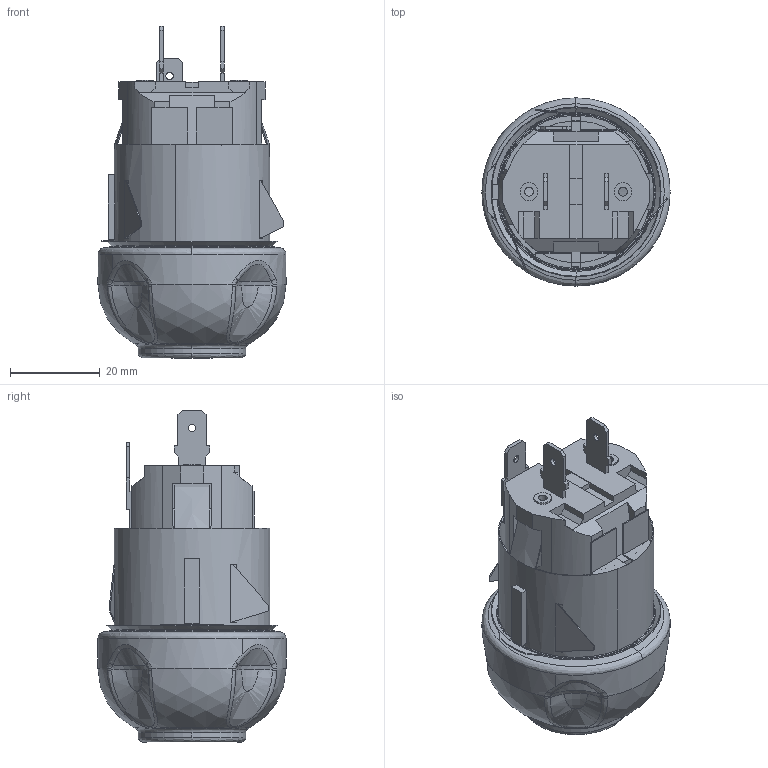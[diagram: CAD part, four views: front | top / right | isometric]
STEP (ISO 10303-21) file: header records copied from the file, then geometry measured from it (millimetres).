
FILE_DESCRIPTION(('CAx-IF Rec.Pracs.---Model Styling and Organization---1.2---2011-12-15','CAx-IF Rec.Pracs.---Geometric and Assembly Validation Properties---4.1---2014-06-16','CAx-IF Rec.Pracs.---PMI Polyline Presentation---2.0---2013-05-24'),'2;1');
FILE_NAME('01FYL12Y03.stp','2018-02-01T12:20:05+01:00',(''),(''),'STEP Interface 4.1 Sp1 by CT CoreTechnologie','3D_Evolution4.1 Sp1 by CT CoreTechnologie','');
FILE_SCHEMA(('AUTOMOTIVE_DESIGN { 1 0 10303 214 1 1 1 1 }'));
Length unit declared in the file: millimetre
Products named in the file (5): 01F-L12-03; 016-N04-07; 00Z-Z0H-03; 01F-J02-03; 002-19P-0E
Assembly tree (4 placements, depth 2):
  01F-L12-03
    016-N04-07
    00Z-Z0H-03
    01F-J02-03
    002-19P-0E
Bounding box: 42 x 42 x 74.12 mm (x, y, z)
Volume: 31089.6 mm3; surface area: 23695.6 mm2
Topology: 4 solids, 4 shells, 482 faces, 1277 edges, 823 vertices
Faces by surface type: plane 279, bspline 128, cylinder 75
Entity records: 22585 total; most frequent: CARTESIAN_POINT 6588, ORIENTED_EDGE 2554, DIRECTION 2379, EDGE_CURVE 1277, VERTEX_POINT 823, AXIS2_PLACEMENT_3D 799, VECTOR 781, LINE 781
